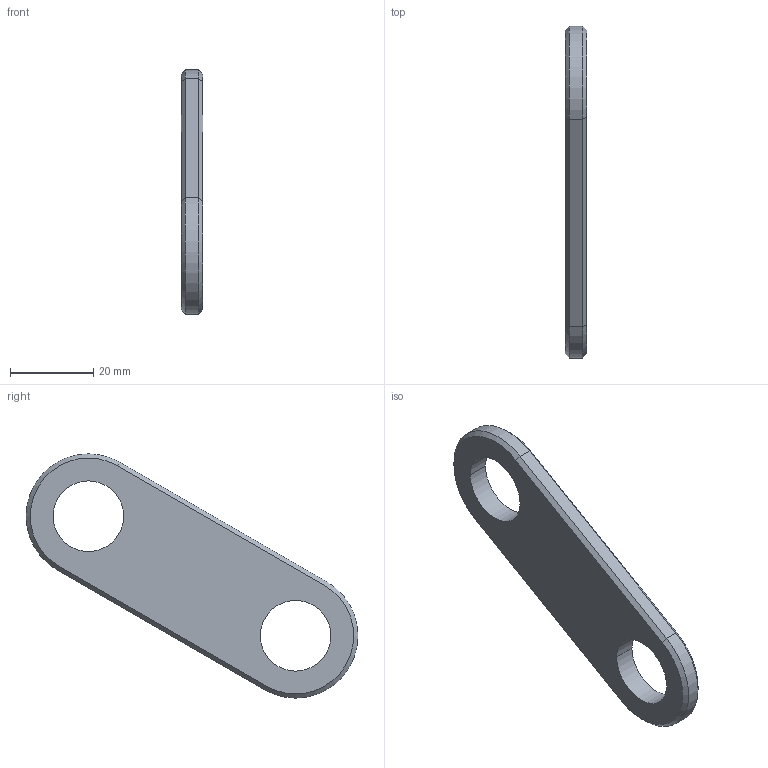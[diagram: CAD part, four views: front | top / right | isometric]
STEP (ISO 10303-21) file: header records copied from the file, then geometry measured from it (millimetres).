
FILE_DESCRIPTION(('CATIA V5 STEP Exchange','CAx-IF Rec.Pracs.--- Model Styling and Organization---1.2---2011-12-15'),'2;1');
FILE_NAME('X:\Projects\INTERIORS\VEMINA\IL-96-026_027\2.WORK_DATA\01.USERS\dmitriy.khorkov\02 OUT DATA\Пак 5_Листовые детали\STP\V.9626.7522.810.051-03.stp','2025-07-03T04:50:55+00:00',('none'),('none'),'CATIA Version 5-6 Release 2013 SP6 HF12','CATIA V5 STEP AP214','none');
FILE_SCHEMA(('AUTOMOTIVE_DESIGN { 1 0 10303 214 1 1 1 1 }'));
Length unit declared in the file: millimetre
Products named in the file (1): V.9626.7522.810.051-03
Bounding box: 5.2 x 79.87 x 58.79 mm (x, y, z)
Volume: 10090.5 mm3; surface area: 5357.1 mm2
Topology: 1 solids, 1 shells, 18 faces, 40 edges, 24 vertices
Faces by surface type: plane 8, cylinder 6, cone 4
Entity records: 499 total; most frequent: CARTESIAN_POINT 81, ORIENTED_EDGE 80, DIRECTION 72, EDGE_CURVE 40, AXIS2_PLACEMENT_3D 33, VECTOR 24, LINE 24, VERTEX_POINT 24
